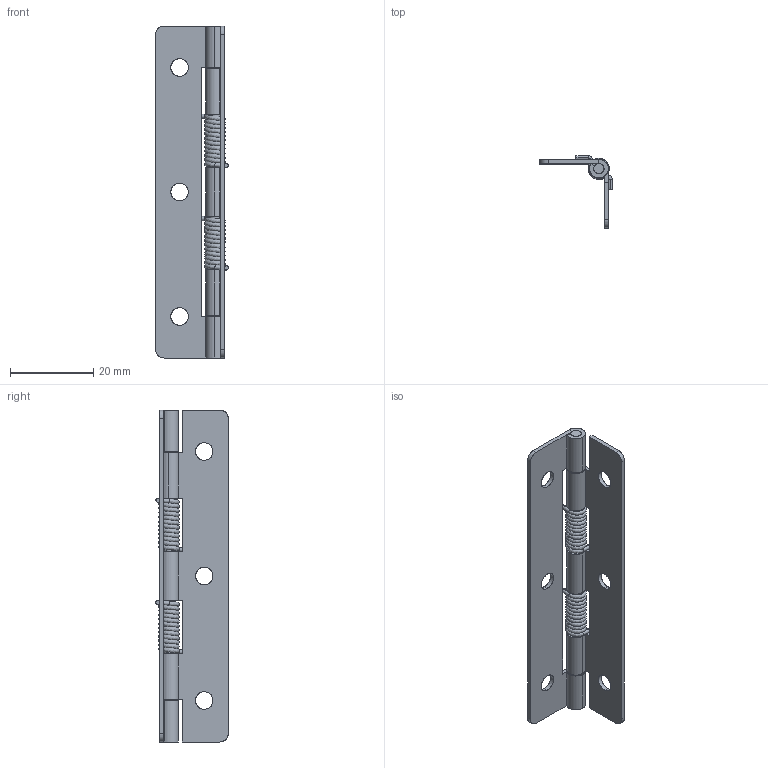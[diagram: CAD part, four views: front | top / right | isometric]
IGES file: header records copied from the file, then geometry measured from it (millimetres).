
Start section: SolidWorks IGES file using analytic representation for surfaces
Global section: file name: Z:\Mes documents\ATAO iges\Gamme CC\CC 473\CC 473.IGS; native system: SolidWorks 2008; preprocessor: SolidWorks 2008; author: cbrechard; date: 110629.085946; units: millimetre
Bounding box: 17.49 x 17.42 x 80 mm (x, y, z)
Surface area: 6856.4 mm2 (no closed solid volume)
Topology: 0 solids, 0 shells, 118 faces, 1556 edges, 1548 vertices
Faces by surface type: bspline 64, revolution 54
